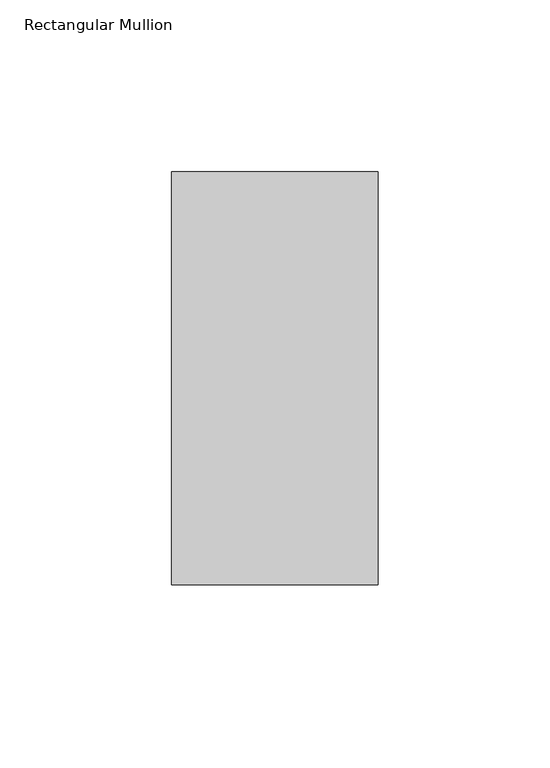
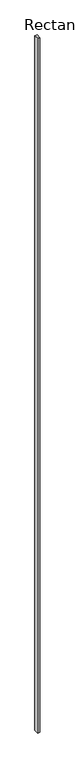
"""IFC4 building model written with IfcOpenShell, lengths in millimetres: member geometry, Rectangular Mullion : Terça."""

from ifc_helpers import new_model, si_unit, frame, origin, place, context, project, spatial, polyline, outline, extrude, source, transform, mapped, element, save


def rectangular_mullion_79e982fb(model_context):
    return source(origin(), model_context, "Body", "SweptSolid", [
        extrude(outline(polyline([(0.0, -120.0), (-60.0, -120.0), (-60.0, 0.0), (0.0, 0.0), (0.0, -120.0)])), frame((0.0, 0.0, -19150.0), z_axis=(0.0, 0.0, 1.0), x_axis=(1.0, 0.0, 0.0)), (0.0, 0.0, 1.0), 19150.0),
    ])


if __name__ == "__main__":
    model = new_model("IFC4")
    model_context = context("Model", 3, world=origin())
    ifc_project = project(units=[si_unit("LENGTHUNIT", "METRE", prefix="MILLI")], contexts=[model_context])
    site = spatial("IfcSite", under=ifc_project)
    building = spatial("IfcBuilding", under=site)
    placement = place(None, origin())
    rectangular_mullion_shape = rectangular_mullion_79e982fb(model_context)
    element("IfcMember", 1, ObjectType="Rectangular Mullion : Terça", at=placement, inside=building, context=model_context, shape_type="MappedRepresentation", body=[
        mapped(rectangular_mullion_shape, transform((0.0, 0.0, 0.0), x_axis=(1.0, 0.0, 0.0), y_axis=(0.0, 1.0, 0.0), z_axis=(0.0, 0.0, 1.0))),
    ])
    save(model, "model.ifc")
